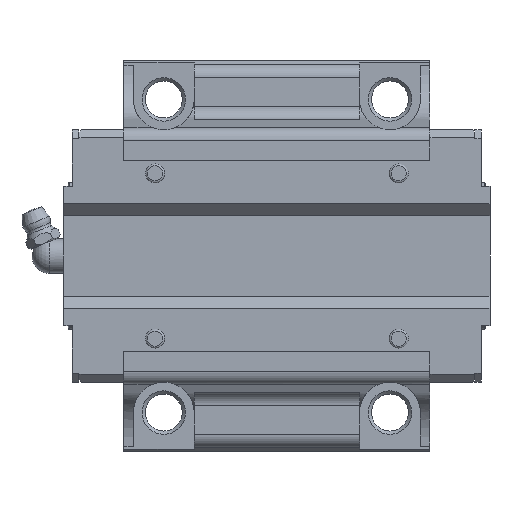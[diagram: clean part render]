
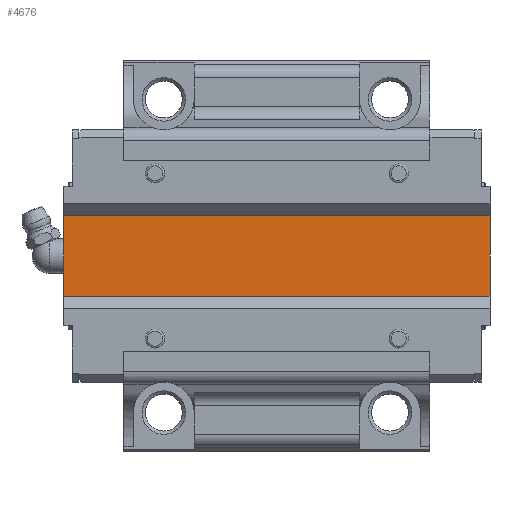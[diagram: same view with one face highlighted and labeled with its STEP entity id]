
A CAD part, front view. The second image highlights one B-rep face of the part: STEP entity #4676.
In plain terms, the highlighted planar face has unit normal (0, -1, 0).
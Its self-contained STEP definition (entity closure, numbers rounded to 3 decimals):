
#430=LINE('',#6877,#908);
#457=LINE('',#6937,#935);
#648=LINE('',#7560,#1126);
#649=LINE('',#7562,#1127);
#908=VECTOR('',#5486,1000.);
#935=VECTOR('',#5523,1000.);
#1126=VECTOR('',#6088,1000.);
#1127=VECTOR('',#6091,1000.);
#2091=ORIENTED_EDGE('',*,*,#2706,.F.);
#2092=ORIENTED_EDGE('',*,*,#3012,.F.);
#2093=ORIENTED_EDGE('',*,*,#2737,.T.);
#2094=ORIENTED_EDGE('',*,*,#3013,.T.);
#2706=EDGE_CURVE('',#3325,#3326,#430,.T.);
#2737=EDGE_CURVE('',#3354,#3353,#457,.T.);
#3012=EDGE_CURVE('',#3354,#3325,#648,.T.);
#3013=EDGE_CURVE('',#3353,#3326,#649,.T.);
#3325=VERTEX_POINT('',#6876);
#3326=VERTEX_POINT('',#6878);
#3353=VERTEX_POINT('',#6936);
#3354=VERTEX_POINT('',#6938);
#3836=EDGE_LOOP('',(#2091,#2092,#2093,#2094));
#4179=FACE_BOUND('',#3836,.T.);
#4450=PLANE('',#5064);
#4676=ADVANCED_FACE('',(#4179),#4450,.T.);
#5064=AXIS2_PLACEMENT_3D('',#7561,#6089,#6090);
#5486=DIRECTION('',(0.,0.,1.));
#5523=DIRECTION('',(0.,0.,1.));
#6088=DIRECTION('',(-1.,0.,0.));
#6089=DIRECTION('',(0.,-1.,0.));
#6090=DIRECTION('',(0.,0.,-1.));
#6091=DIRECTION('',(-1.,0.,0.));
#6876=CARTESIAN_POINT('',(-49.,19.,-10.215));
#6877=CARTESIAN_POINT('',(-49.,19.,-10.215));
#6878=CARTESIAN_POINT('',(-49.,19.,10.215));
#6936=CARTESIAN_POINT('',(49.,19.,10.215));
#6937=CARTESIAN_POINT('',(49.,19.,-10.215));
#6938=CARTESIAN_POINT('',(49.,19.,-10.215));
#7560=CARTESIAN_POINT('',(49.,19.,-10.215));
#7561=CARTESIAN_POINT('',(49.,19.,-10.215));
#7562=CARTESIAN_POINT('',(49.,19.,10.215));
